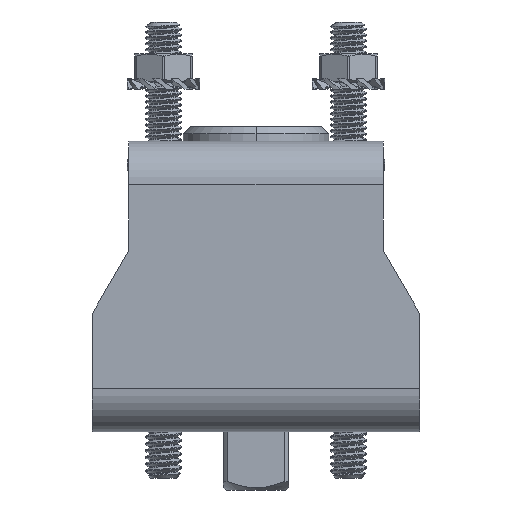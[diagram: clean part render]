
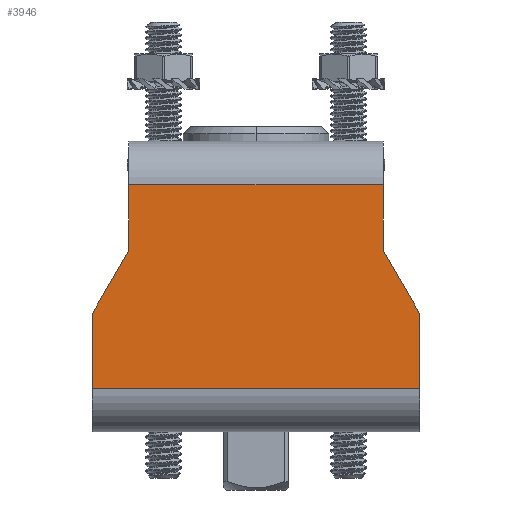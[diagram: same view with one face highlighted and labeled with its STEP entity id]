
A CAD part, left-side view. The second image highlights one B-rep face of the part: STEP entity #3946.
In plain terms, the highlighted planar face has unit normal (-1, 0, 0).
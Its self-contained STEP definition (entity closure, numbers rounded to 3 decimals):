
#45=DIRECTION('',(0.,0.,1.));
#46=VECTOR('',#45,10.34);
#47=CARTESIAN_POINT('',(0.,0.,-34.));
#48=LINE('',#47,#46);
#369=DIRECTION('',(0.,0.,1.));
#370=VECTOR('',#369,10.34);
#371=CARTESIAN_POINT('',(0.,45.,-34.));
#372=LINE('',#371,#370);
#463=DIRECTION('',(0.,0.,-1.));
#464=VECTOR('',#463,9.);
#465=CARTESIAN_POINT('',(0.,40.,-6.));
#466=LINE('',#465,#464);
#467=DIRECTION('',(0.,0.,-1.));
#468=VECTOR('',#467,9.);
#469=CARTESIAN_POINT('',(0.,5.,-6.));
#470=LINE('',#469,#468);
#471=DIRECTION('',(0.,-0.5,-0.866));
#472=VECTOR('',#471,10.);
#473=CARTESIAN_POINT('',(0.,5.,-15.));
#474=LINE('',#473,#472);
#475=DIRECTION('',(0.,-0.5,0.866));
#476=VECTOR('',#475,10.);
#477=CARTESIAN_POINT('',(0.,45.,-23.66));
#478=LINE('',#477,#476);
#483=DIRECTION('',(0.,1.,0.));
#484=VECTOR('',#483,35.);
#485=CARTESIAN_POINT('',(0.,5.,-6.));
#486=LINE('',#485,#484);
#2655=DIRECTION('',(0.,1.,0.));
#2656=VECTOR('',#2655,45.);
#2657=CARTESIAN_POINT('',(0.,0.,-34.));
#2658=LINE('',#2657,#2656);
#2689=CARTESIAN_POINT('',(0.,0.,-34.));
#2690=CARTESIAN_POINT('',(0.,45.,-34.));
#2691=VERTEX_POINT('',#2689);
#2692=VERTEX_POINT('',#2690);
#2777=CARTESIAN_POINT('',(0.,40.,-6.));
#2778=CARTESIAN_POINT('',(0.,40.,-15.));
#2779=VERTEX_POINT('',#2777);
#2780=VERTEX_POINT('',#2778);
#2781=CARTESIAN_POINT('',(0.,5.,-6.));
#2782=CARTESIAN_POINT('',(0.,5.,-15.));
#2783=VERTEX_POINT('',#2781);
#2784=VERTEX_POINT('',#2782);
#2833=CARTESIAN_POINT('',(0.,0.,-23.66));
#2834=VERTEX_POINT('',#2833);
#2835=CARTESIAN_POINT('',(0.,45.,-23.66));
#2836=VERTEX_POINT('',#2835);
#3926=CARTESIAN_POINT('',(0.,0.,-40.));
#3927=DIRECTION('',(-1.,0.,0.));
#3928=DIRECTION('',(0.,0.,1.));
#3929=AXIS2_PLACEMENT_3D('',#3926,#3927,#3928);
#3930=PLANE('',#3929);
#3931=ORIENTED_EDGE('',*,*,#3900,.F.);
#3933=ORIENTED_EDGE('',*,*,#3932,.F.);
#3935=ORIENTED_EDGE('',*,*,#3934,.T.);
#3937=ORIENTED_EDGE('',*,*,#3936,.T.);
#3938=ORIENTED_EDGE('',*,*,#3400,.F.);
#3940=ORIENTED_EDGE('',*,*,#3939,.T.);
#3941=ORIENTED_EDGE('',*,*,#3831,.T.);
#3943=ORIENTED_EDGE('',*,*,#3942,.T.);
#3944=EDGE_LOOP('',(#3931,#3933,#3935,#3937,#3938,#3940,#3941,#3943));
#3945=FACE_OUTER_BOUND('',#3944,.F.);
#3946=ADVANCED_FACE('',(#3945),#3930,.T.);
#3400=EDGE_CURVE('',#2691,#2834,#48,.T.);
#3831=EDGE_CURVE('',#2692,#2836,#372,.T.);
#3900=EDGE_CURVE('',#2779,#2780,#466,.T.);
#3932=EDGE_CURVE('',#2783,#2779,#486,.T.);
#3934=EDGE_CURVE('',#2783,#2784,#470,.T.);
#3936=EDGE_CURVE('',#2784,#2834,#474,.T.);
#3939=EDGE_CURVE('',#2691,#2692,#2658,.T.);
#3942=EDGE_CURVE('',#2836,#2780,#478,.T.);
